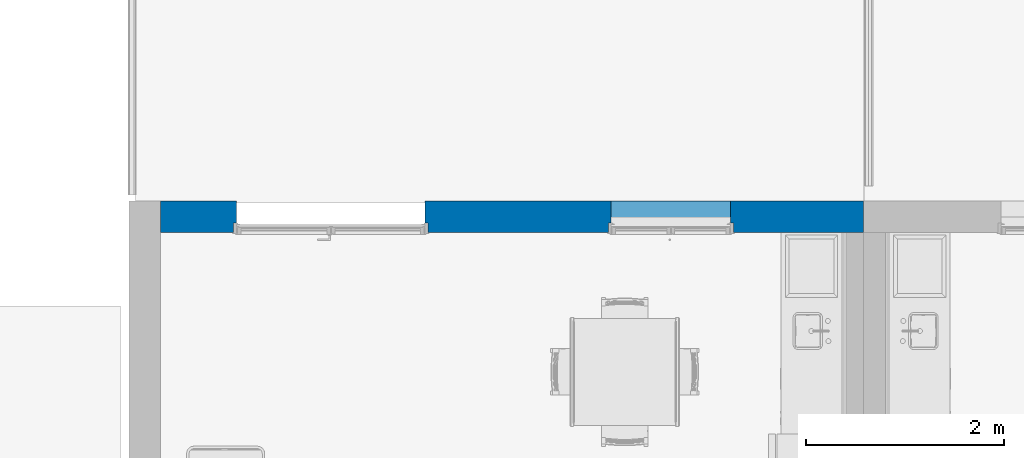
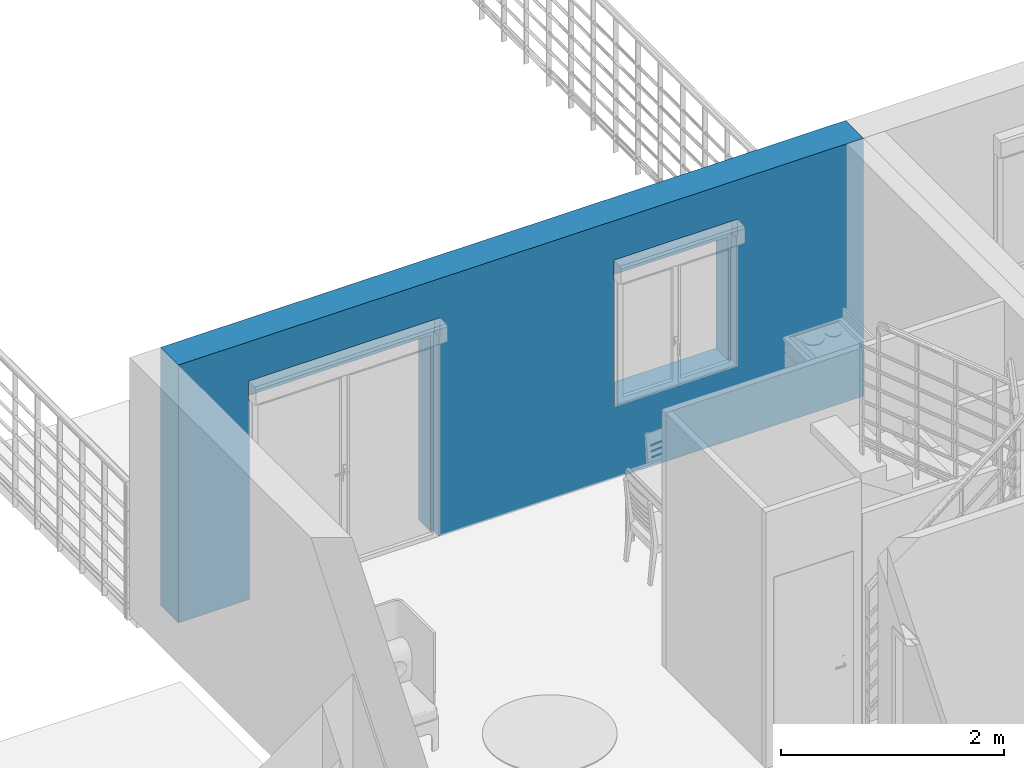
# One storey, part 22 of 30: 1 wall, 2 openings.
"""IFC2X3 building model written with IfcOpenShell, lengths in metres."""

from ifc_helpers import new_model, entity, si_unit, converted_unit, derived_unit, direction, frame, frame_2d, origin, place, context, subcontext, project, spatial, rectangle, extrude, faceted_brep, material, layer, layer_set, layer_usage, type_object, element, save


model = new_model("IFC2X3")

# Units and contexts
model_context = context("Model", 3, precision=1e-05, world=origin(), true_north=direction((6.12303176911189e-17, 1.0)))
body_context = subcontext(model_context, "Body", "Model", "MODEL_VIEW")
ifc_project = project(units=[si_unit("LENGTHUNIT", "METRE"), si_unit("AREAUNIT", "SQUARE_METRE"), si_unit("VOLUMEUNIT", "CUBIC_METRE"), converted_unit("PLANEANGLEUNIT", "DEGREE", entity("IfcRatioMeasure", 0.0174532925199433), si_unit("PLANEANGLEUNIT", "RADIAN"), dimensions=[0, 0, 0, 0, 0, 0, 0]), si_unit("MASSUNIT", "GRAM", prefix="KILO"), derived_unit("MASSDENSITYUNIT", [(si_unit("MASSUNIT", "GRAM", prefix="KILO"), 1), (si_unit("LENGTHUNIT", "METRE"), -3)]), si_unit("TIMEUNIT", "SECOND"), si_unit("FREQUENCYUNIT", "HERTZ"), si_unit("THERMODYNAMICTEMPERATUREUNIT", "DEGREE_CELSIUS"), derived_unit("THERMALTRANSMITTANCEUNIT", [(si_unit("MASSUNIT", "GRAM", prefix="KILO"), 1), (si_unit("THERMODYNAMICTEMPERATUREUNIT", "KELVIN"), -1), (si_unit("TIMEUNIT", "SECOND"), -3)]), derived_unit("VOLUMETRICFLOWRATEUNIT", [(si_unit("LENGTHUNIT", "METRE"), 3), (si_unit("TIMEUNIT", "SECOND"), -1)]), si_unit("ELECTRICCURRENTUNIT", "AMPERE"), si_unit("ELECTRICVOLTAGEUNIT", "VOLT"), si_unit("POWERUNIT", "WATT"), si_unit("FORCEUNIT", "NEWTON", prefix="KILO"), si_unit("ILLUMINANCEUNIT", "LUX"), si_unit("LUMINOUSFLUXUNIT", "LUMEN"), si_unit("LUMINOUSINTENSITYUNIT", "CANDELA"), derived_unit("USERDEFINED", [(si_unit("MASSUNIT", "GRAM", prefix="KILO"), -1), (si_unit("LENGTHUNIT", "METRE"), -2), (si_unit("TIMEUNIT", "SECOND"), 3), (si_unit("LUMINOUSFLUXUNIT", "LUMEN"), 1)]), derived_unit("LINEARVELOCITYUNIT", [(si_unit("LENGTHUNIT", "METRE"), 1), (si_unit("TIMEUNIT", "SECOND"), -1)]), si_unit("PRESSUREUNIT", "PASCAL"), derived_unit("USERDEFINED", [(si_unit("LENGTHUNIT", "METRE"), -2), (si_unit("MASSUNIT", "GRAM", prefix="KILO"), 1), (si_unit("TIMEUNIT", "SECOND"), -2)])], contexts=[model_context])

# Site, building, storey
site_placement = place(None, origin())
site = spatial("IfcSite", under=ifc_project, at=site_placement, Name="Surface", CompositionType="ELEMENT")
building_placement = place(site_placement, origin())
building = spatial("IfcBuilding", under=site, at=building_placement, CompositionType="ELEMENT")
storey_placement = place(building_placement, origin())
storey = spatial("IfcBuildingStorey", under=building, at=storey_placement, Name="Plan des fondations  Maisons 1 et 2", CompositionType="ELEMENT", Elevation=0.0)

# Wall, openings
ifc_material_1 = material(Name="Enduit blanc cassé2")
ifc_layer_1 = layer(ifc_material_1, 0.02)
ifc_material_2 = material(Name="Parpaing")
ifc_layer_2 = layer(ifc_material_2, 0.2)
ifc_material_3 = material(Name="Isolant")
ifc_layer_3 = layer(ifc_material_3, 0.1)
ifc_layer_set = layer_set([ifc_layer_1, ifc_layer_2, ifc_layer_3], Name="Mur de base:Ext. Parpaing 20 + Isolant 10 enduit blanc cassé")
ifc_layer_usage = layer_usage(ifc_layer_set, "AXIS2", "NEGATIVE", 0.16)
wall_type = type_object("IfcWallType", Name="Mur de base:Ext. Parpaing 20 + Isolant 10 enduit blanc cassé", PredefinedType="STANDARD", material=ifc_layer_set)
wall_placement = place(storey_placement, frame((76.622756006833, 92.3075239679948, 0.0)))
wall = element("IfcWallStandardCase", 1, at=wall_placement, inside=storey, type_object=wall_type, material=ifc_layer_usage, Name="Mur de base:Ext. Parpaing 20 + Isolant 10 enduit blanc cassé", ObjectType="Mur de base:Ext. Parpaing 20 + Isolant 10 enduit blanc cassé", context=body_context, shape_type="SweptSolid", body=[
    extrude(rectangle(XDim=7.08402976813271, YDim=0.319999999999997, at=frame_2d((3.54201488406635, 0.0), x_axis=(-1.0, 0.0))), origin(), (0.0, 0.0, 1.0), 2.82),
])
opening_1_placement = place(wall_placement, frame((0.726460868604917, -0.259999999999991, 0.0)))
element("IfcOpeningElement", 2, at=opening_1_placement, cuts=wall, Name="Mur de base:Ext. Parpaing 20 + Isolant 10 enduit blanc cassé", ObjectType="Opening", context=body_context, shape_type="Brep", body=[
    faceted_brep([(1.93997696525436, 0.720000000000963, 2.15), (0.0399769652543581, 0.720000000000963, 2.15), (0.0399769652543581, 0.199999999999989, 2.15), (1.93997696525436, 0.199999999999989, 2.15), (0.0399769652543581, 0.720000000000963, 0.0), (1.93997696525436, 0.720000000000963, 0.0), (1.93997696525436, 0.199999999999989, 0.0), (1.96997696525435, 0.199999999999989, 0.0), (1.96997696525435, 0.0999999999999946, 0.0), (1.93997696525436, 0.0999999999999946, 0.0), (1.93997696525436, 0.0, 0.0), (0.0399769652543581, 0.0, 0.0), (0.0399769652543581, 0.0999999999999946, 0.0), (0.00997696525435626, 0.0999999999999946, 0.0), (0.00997696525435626, 0.199999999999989, 0.0), (0.0399769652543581, 0.199999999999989, 0.0), (1.93997696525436, 0.0, 2.15), (0.0399769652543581, 0.0, 2.15), (1.96997696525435, 0.0999999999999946, 2.18), (1.97995393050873, 0.0999999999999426, 2.18000000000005), (1.97995393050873, 0.0999999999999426, 2.39000000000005), (0.0, 0.0999999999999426, 2.39000000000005), (0.0, 0.0999999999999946, 2.18000000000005), (0.00997696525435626, 0.0999999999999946, 2.18), (0.0399769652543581, 0.0999999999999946, 2.15), (1.93997696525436, 0.0999999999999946, 2.15), (1.96997696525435, 0.199999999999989, 2.18000000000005), (0.00997696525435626, 0.199999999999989, 2.18000000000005), (0.0, 0.199999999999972, 2.18000000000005), (0.0, 0.199999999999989, 2.39000000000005), (1.97995393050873, 0.199999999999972, 2.39000000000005), (1.97995393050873, 0.199999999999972, 2.18000000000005)], [[[0, 1, 2, 3]], [[4, 5, 6, 7, 8, 9, 10, 11, 12, 13, 14, 15]], [[1, 0, 5, 4]], [[5, 0, 3, 6]], [[16, 17, 11, 10]], [[1, 4, 15, 2]], [[9, 8, 18, 19, 20, 21, 22, 23, 13, 12, 24, 25]], [[8, 7, 26, 18]], [[7, 6, 3, 2, 15, 14, 27, 28, 29, 30, 31, 26]], [[13, 23, 27, 14]], [[31, 30, 20, 19]], [[28, 22, 21, 29]], [[31, 19, 18, 26]], [[20, 30, 29, 21]], [[22, 28, 27, 23]], [[11, 17, 24, 12]], [[16, 10, 9, 25]], [[17, 16, 25, 24]]]),
])
opening_2_placement = place(wall_placement, frame((4.50220465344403, -0.259999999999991, 0.799999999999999)))
element("IfcOpeningElement", 3, at=opening_2_placement, cuts=wall, Name="Mur de base:Ext. Parpaing 20 + Isolant 10 enduit blanc cassé", ObjectType="Opening", context=body_context, shape_type="Brep", body=[
    faceted_brep([(1.24000000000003, 0.720000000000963, 1.35), (0.0400000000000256, 0.720000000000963, 1.35), (0.0400000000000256, 0.199999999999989, 1.35), (1.24000000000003, 0.199999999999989, 1.35), (0.0400000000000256, 0.720000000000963, 0.0), (1.24000000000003, 0.720000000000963, 0.0), (1.24000000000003, 0.199999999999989, 0.0), (1.27000000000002, 0.199999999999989, 0.0), (1.27000000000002, 0.0999999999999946, 0.0), (1.24000000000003, 0.0999999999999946, 0.0), (1.24000000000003, 0.0, 0.0), (0.0400000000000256, 0.0, 0.0), (0.0400000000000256, 0.0999999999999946, 0.0), (0.0100000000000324, 0.0999999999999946, 0.0), (0.0100000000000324, 0.199999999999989, 0.0), (0.0400000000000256, 0.199999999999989, 0.0), (1.24000000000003, 0.0, 1.35), (0.0400000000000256, 0.0, 1.35), (1.27000000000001, 0.0999999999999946, 1.38), (1.28000000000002, 0.100000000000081, 1.38000000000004), (1.28000000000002, 0.100000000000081, 1.59000000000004), (0.0, 0.100000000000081, 1.59000000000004), (0.0, 0.0999999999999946, 1.38000000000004), (0.0100000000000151, 0.0999999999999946, 1.38), (0.0400000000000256, 0.0999999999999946, 1.35), (1.24000000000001, 0.0999999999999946, 1.35), (1.27000000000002, 0.199999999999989, 1.38000000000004), (0.0100000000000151, 0.199999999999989, 1.38000000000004), (0.0, 0.200000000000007, 1.38000000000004), (0.0, 0.199999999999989, 1.59000000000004), (1.28000000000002, 0.200000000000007, 1.59000000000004), (1.28000000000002, 0.200000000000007, 1.38000000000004)], [[[0, 1, 2, 3]], [[4, 5, 6, 7, 8, 9, 10, 11, 12, 13, 14, 15]], [[1, 0, 5, 4]], [[5, 0, 3, 6]], [[16, 17, 11, 10]], [[1, 4, 15, 2]], [[9, 8, 18, 19, 20, 21, 22, 23, 13, 12, 24, 25]], [[8, 7, 26, 18]], [[7, 6, 3, 2, 15, 14, 27, 28, 29, 30, 31, 26]], [[13, 23, 27, 14]], [[31, 30, 20, 19]], [[28, 22, 21, 29]], [[31, 19, 18, 26]], [[20, 30, 29, 21]], [[22, 28, 27, 23]], [[11, 17, 24, 12]], [[16, 10, 9, 25]], [[17, 16, 25, 24]]]),
])

save(model, "model.ifc")
